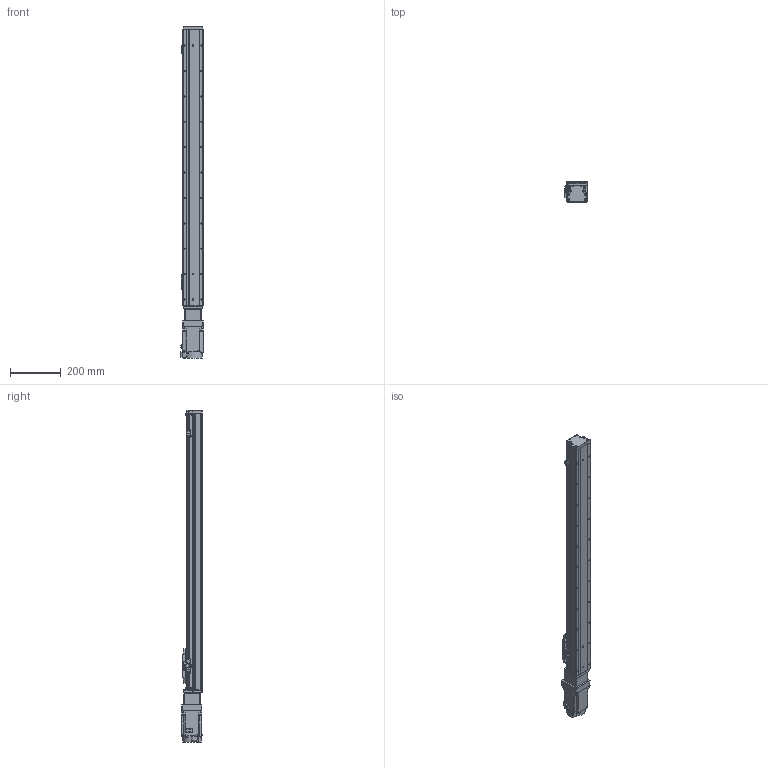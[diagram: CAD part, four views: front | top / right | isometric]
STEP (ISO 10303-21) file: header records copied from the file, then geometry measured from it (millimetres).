
FILE_DESCRIPTION (( 'STEP AP203' ), '1' );
FILE_NAME ('GTH8-900-BC-M75-C4.step', '2023-02-14T02:21:14', ( '微软用户' ), ( '微软中国' ), 'SwSTEP 2.0', 'SolidWorks 2020', '' );
FILE_SCHEMA (( 'CONFIG_CONTROL_DESIGN' ));
Length unit declared in the file: millimetre
Products named in the file (19): GTH80-001_900; GBT 70.1-M3℅6; CTHA86-006-1_CTHA86-006-4; GTH80-003; GBT 70.1-M4×16; CTHA86-013; GTH80-004; GTH80-028; CTHA86-027; GTH80-006; GTH50-024; hg-kn73j_-s100; GTH80-013; GTH50-023; GTH8-900-BC-M75-C4; GBT 70.3-M3℅6; GBT96.1-2002 3×0.8; GTH80-022; BTH-M3X5X6
Assembly tree (60 placements, depth 2):
  GTH8-900-BC-M75-C4
    GTH80-001_900
    GTH80-003
    GTH80-004
    GTH80-006
    GTH80-013
    GBT 70.3-M3℅6  x6
    GTH80-022
    GBT 70.1-M3℅6  x14
    GBT 70.1-M4×16  x8
    GTH80-028  x2
    GTH50-024  x3
    GTH50-023  x3
    GBT96.1-2002 3×0.8  x6
    BTH-M3X5X6  x8
    CTHA86-006-1_CTHA86-006-4
    CTHA86-013
    CTHA86-027
    hg-kn73j_-s100
Bounding box: 89.8 x 81.72 x 1307.2 mm (x, y, z)
Volume: 5944616.3 mm3; surface area: 577158.9 mm2
Topology: 62 solids, 62 shells, 2269 faces, 5234 edges, 3192 vertices
Faces by surface type: plane 1185, cylinder 627, cone 285, torus 162, sphere 8, bspline 2
Entity records: 40081 total; most frequent: DIRECTION 6615, CARTESIAN_POINT 6602, ORIENTED_EDGE 6058, EDGE_CURVE 3029, AXIS2_PLACEMENT_3D 2323, LINE 1969, VECTOR 1969, VERTEX_POINT 1905
